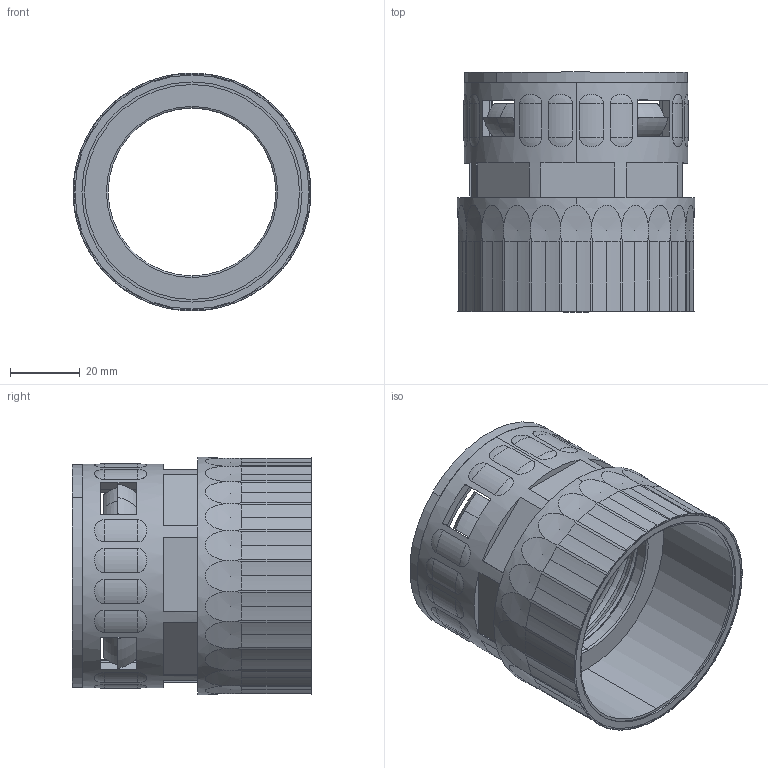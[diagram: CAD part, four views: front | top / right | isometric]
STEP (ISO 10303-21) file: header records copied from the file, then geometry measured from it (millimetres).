
FILE_DESCRIPTION (( 'STEP AP203' ), '1' );
FILE_NAME ('WQG2-M63-AD54.5.STEP', '2020-03-13T02:29:30', ( '' ), ( '' ), 'SwSTEP 2.0', 'SolidWorks 2016', '' );
FILE_SCHEMA (( 'CONFIG_CONTROL_DESIGN' ));
Length unit declared in the file: millimetre
Products named in the file (4): WQG2-M63-AD54.5; NSK-AD54.5; GFD-AD54.5
Assembly tree (3 placements, depth 2):
  WQG2-M63-AD54.5
    WQG2-M63-AD54.5
    GFD-AD54.5
    NSK-AD54.5
Bounding box: 68 x 68.57 x 68 mm (x, y, z)
Volume: 49886.3 mm3; surface area: 45999.6 mm2
Topology: 3 solids, 3 shells, 554 faces, 1621 edges, 1034 vertices
Faces by surface type: cylinder 218, plane 200, sphere 56, cone 49, torus 31
Entity records: 19892 total; most frequent: CARTESIAN_POINT 5385, DIRECTION 3062, ORIENTED_EDGE 2970, EDGE_CURVE 1485, AXIS2_PLACEMENT_3D 1211, VERTEX_POINT 954, CIRCLE 651, VECTOR 640
